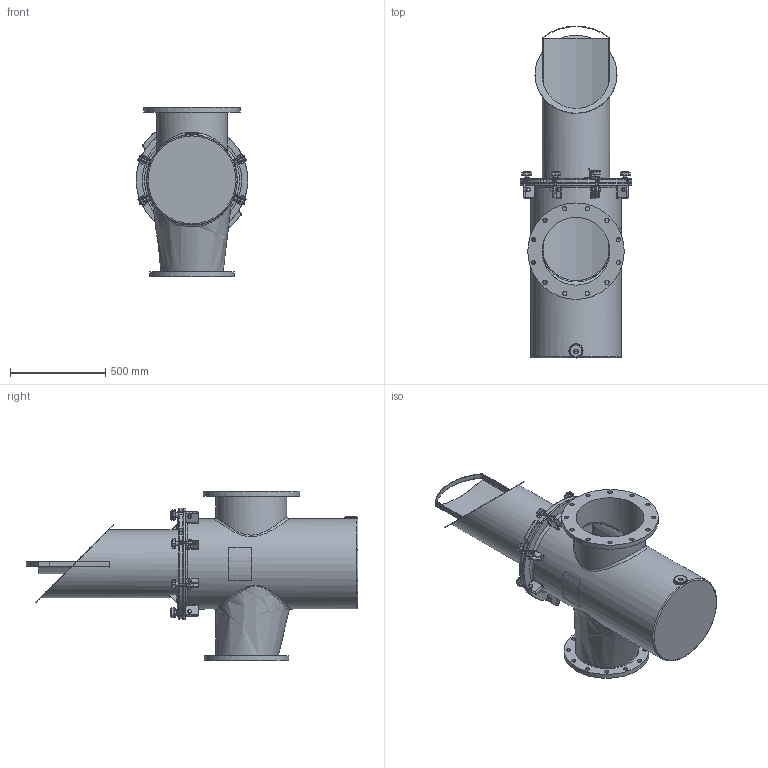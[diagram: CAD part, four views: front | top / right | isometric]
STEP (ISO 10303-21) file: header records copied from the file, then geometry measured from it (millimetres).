
FILE_DESCRIPTION(/* description */ ('350MM X 300MM FIBERGLASS STRAINER BODY'),/* implementation_level */ '2;1');
FILE_NAME(/* name */ 'C:\Users\r.kommineni.ext\Desktop\NB\CAD\Workspace\FG Reducing Strainer\Guardian FG Reducing H&L Strainer (Metric)_CLEARANCE VOLUME\STRAINER H&L 350MM X 300MM.stp',/* time_stamp */ '2017-06-09T13:32:36-04:00',/* author */ ('r.kommineni.ext'),/* organization */ (''),/* preprocessor_version */ 'ST-DEVELOPER v16.1',/* originating_system */ 'Autodesk Inventor 2016',/* authorisation */ '');
FILE_SCHEMA (('CONFIG_CONTROL_DESIGN'));
Length unit declared in the file: inch
Products named in the file (25): NBFGBODY14X12MM; 150NBCVR18R2; 150NBGSK18R1; Perforated Basket 18in; Bride (Ring) 18in; Baffle 18in; Handle 18in; Bottom Strainer 18in; BRACESTRCVR18_Welds; BRACE (BASE) FOR 18 BODY; BRACE (PROJ) FOR 18 BODY; Bumper; BRACESTRCVR18; Nut- 1_2  UNC; Bolt-1_2 x 1 1_2  UNC; EyeBolt; Washer; Knob M10; Securing Assembly For FG  with Brace; Securing Assembly For FG without Brace; Label for 18.625 inch (Right); Label for 18.625 inch (Left); NBBSK14T316_clearance; NBBSK14T316_clearance_1; STRAINER H&L 350MM X 300MM
Assembly tree (40 placements, depth 3):
  STRAINER H&L 350MM X 300MM
    NBFGBODY14X12MM
    150NBCVR18R2
    150NBGSK18R1
    NBBSK14T316_clearance_1
      Perforated Basket 18in
      Bride (Ring) 18in
      Baffle 18in
      Handle 18in
      Bottom Strainer 18in
      NBBSK14T316_clearance
    BRACESTRCVR18
      BRACESTRCVR18_Welds
      BRACE (BASE) FOR 18 BODY
      BRACE (PROJ) FOR 18 BODY
      Bumper  x6
    Securing Assembly For FG  with Brace  x2
      Nut- 1_2  UNC
      Bolt-1_2 x 1 1_2  UNC
      EyeBolt
      Washer
      Knob M10
    Securing Assembly For FG without Brace  x6
      Nut- 1_2  UNC
      Bolt-1_2 x 1 1_2  UNC
      EyeBolt
      Washer
      Knob M10
    Label for 18.625 inch (Right)
    Label for 18.625 inch (Left)
Bounding box: 584.2 x 1739.9 x 889 mm (x, y, z)
Volume: 29647186 mm3; surface area: 8612784.9 mm2
Topology: 67 solids, 70 shells, 1859 faces, 4269 edges, 2533 vertices
Faces by surface type: cylinder 685, plane 524, cone 184, torus 168, sphere 158, bspline 140
Full cylindrical faces by diameter (mm): 3.175 x11, 6.35 x2, 8.382 x8, 9.525 x16, 10.592 x8, 12.7 x8, 15.875 x16, 19 x16, 19.05 x8, 22.098 x24, 22.809 x1, 31.75 x8, 68.263 x1, 352.425 x2, 355.6 x3, 358.14 x1, 371.475 x1, 444.5 x1, 457.2 x3, 463.55 x1, 473.075 x1, 505.46 x1, 520.7 x1, 527.05 x1
Entity records: 39178 total; most frequent: CARTESIAN_POINT 15003, DIRECTION 4993, ORIENTED_EDGE 4551, EDGE_CURVE 2300, AXIS2_PLACEMENT_3D 2032, VERTEX_POINT 1449, EDGE_LOOP 1234, ADVANCED_FACE 1009
